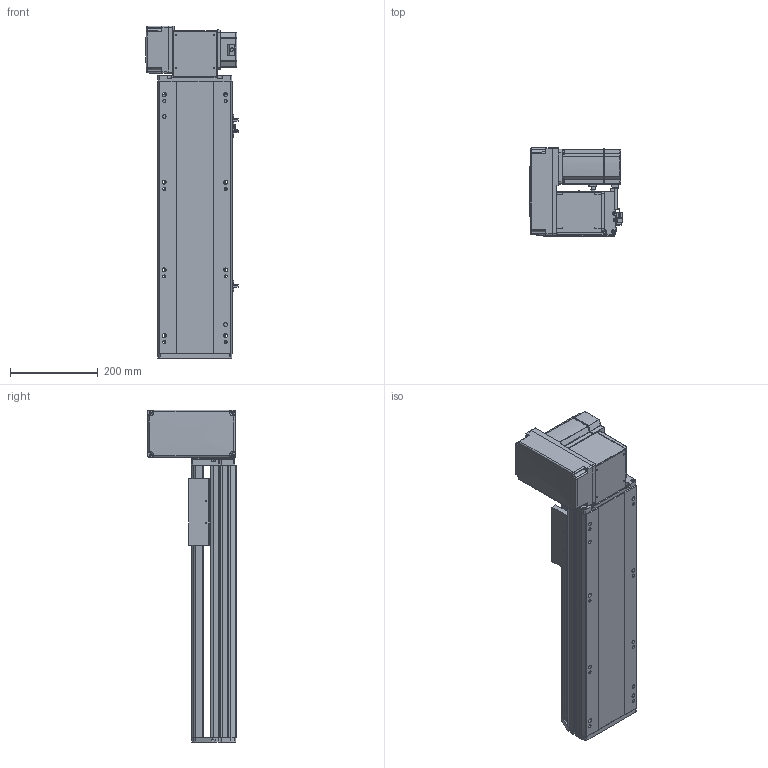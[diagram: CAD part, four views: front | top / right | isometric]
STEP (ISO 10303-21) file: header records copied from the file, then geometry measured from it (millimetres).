
FILE_DESCRIPTION (( 'STEP AP214' ), '1' );
FILE_NAME ('RTB17S-XX-350-LW-M75-C4.STEP', '2025-12-12T00:59:47', ( '' ), ( '' ), 'SwSTEP 2.0', 'SolidWorks 2018', '' );
FILE_SCHEMA (( 'AUTOMOTIVE_DESIGN' ));
Length unit declared in the file: millimetre
Products named in the file (15): RTB17S-賑釱^RTB17S-XX-XX-LW-M75-C4; RTB22S-GY-008-M75--萇儂啣^RTB17S-LW-々湍釱蚾饜-750W_RTB17S-XX-XX-LW-M75-C4; RTH13-BL-012覜茼え俋离^RTB17S-賑釱_RTB17S-XX-XX-LW-M75-C4; RTB17S-L-004-賑釱^RTB17S-賑釱_RTB17S-XX-XX-LW-M75-C4; RTB17S-XX-350-LW-M75-C4; 750W萇儂^RTB17S-XX-XX-LW-M75-C4; RTB17S-L-001-耜醱啣^RTB17S-XX-XX-LW-M75-C4; RTB17-R-011菁釱^RTB17S-XX-XX-LW-M75-C4; RTB22S-GY-017P^RTB17S-LW-々湍釱蚾饜-750W_RTB17S-XX-XX-LW-M75-C4; EE672^RTB17S-XX-XX-LW-M75-C4; RTB22S-GY-005P^RTB17S-LW-々湍釱蚾饜-750W_RTB17S-XX-XX-LW-M75-C4; RTB17S-LW-々湍釱蚾饜-750W^RTB17S-XX-XX-LW-M75-C4; RTB17S-L-007奻裔^RTB17S-XX-XX-LW-M75-C4; RTB22S-GY-018P^RTB17S-LW-々湍釱蚾饜-750W_RTB17S-XX-XX-LW-M75-C4; RTB17S-L-014-T20-P75--々湍釱^RTB17S-LW-々湍釱蚾饜-750W_RTB17S-XX-XX-LW-M75-C4
Assembly tree (17 placements, depth 3):
  RTB17S-XX-350-LW-M75-C4
    RTB17-R-011菁釱^RTB17S-XX-XX-LW-M75-C4
    EE672^RTB17S-XX-XX-LW-M75-C4  x3
    RTB17S-L-001-耜醱啣^RTB17S-XX-XX-LW-M75-C4
    RTB17S-賑釱^RTB17S-XX-XX-LW-M75-C4
      RTB17S-L-004-賑釱^RTB17S-賑釱_RTB17S-XX-XX-LW-M75-C4
      RTH13-BL-012覜茼え俋离^RTB17S-賑釱_RTB17S-XX-XX-LW-M75-C4
    RTB17S-L-007奻裔^RTB17S-XX-XX-LW-M75-C4
    750W萇儂^RTB17S-XX-XX-LW-M75-C4
    RTB17S-LW-々湍釱蚾饜-750W^RTB17S-XX-XX-LW-M75-C4
      RTB17S-L-014-T20-P75--々湍釱^RTB17S-LW-々湍釱蚾饜-750W_RTB17S-XX-XX-LW-M75-C4
      RTB22S-GY-005P^RTB17S-LW-々湍釱蚾饜-750W_RTB17S-XX-XX-LW-M75-C4
      RTB22S-GY-017P^RTB17S-LW-々湍釱蚾饜-750W_RTB17S-XX-XX-LW-M75-C4  x2
      RTB22S-GY-008-M75--萇儂啣^RTB17S-LW-々湍釱蚾饜-750W_RTB17S-XX-XX-LW-M75-C4
      RTB22S-GY-018P^RTB17S-LW-々湍釱蚾饜-750W_RTB17S-XX-XX-LW-M75-C4
Bounding box: 210.4 x 201.5 x 757.5 mm (x, y, z)
Volume: 8137885.8 mm3; surface area: 1272505.1 mm2
Topology: 17 solids, 17 shells, 2041 faces, 5620 edges, 3626 vertices
Faces by surface type: plane 964, cylinder 661, bspline 294, cone 110, sphere 8, torus 4
Entity records: 55798 total; most frequent: CARTESIAN_POINT 16284, ORIENTED_EDGE 8084, DIRECTION 7592, EDGE_CURVE 4042, AXIS2_PLACEMENT_3D 2646, VERTEX_POINT 2630, VECTOR 2300, LINE 2300
